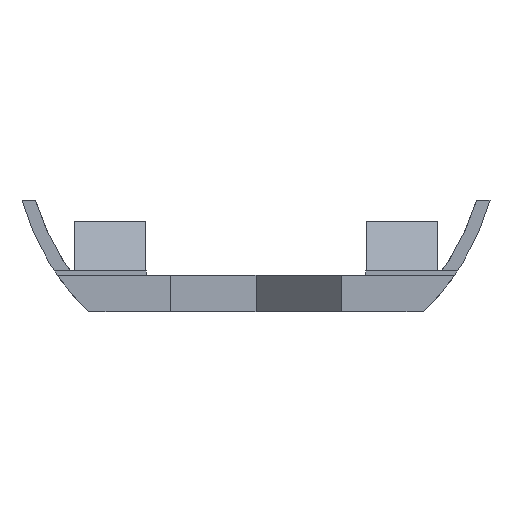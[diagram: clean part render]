
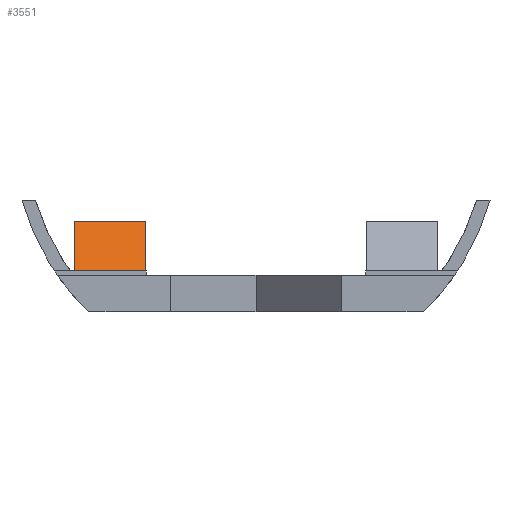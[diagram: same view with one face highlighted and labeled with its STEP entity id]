
A CAD part, left-side view. The second image highlights one B-rep face of the part: STEP entity #3551.
In plain terms, the highlighted planar face has unit normal (-0.643, 0, 0.766).
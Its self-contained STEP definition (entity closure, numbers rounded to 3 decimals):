
#32 = PLANE('',#33);
#33 = AXIS2_PLACEMENT_3D('',#34,#35,#36);
#34 = CARTESIAN_POINT('',(61.,-22.,-10.8));
#35 = DIRECTION('',(0.,0.,-1.));
#36 = DIRECTION('',(1.,0.,0.));
#601 = VERTEX_POINT('',#602);
#602 = CARTESIAN_POINT('',(160.896,14.,-10.8));
#615 = PLANE('',#616);
#616 = AXIS2_PLACEMENT_3D('',#617,#618,#619);
#617 = CARTESIAN_POINT('',(164.348,14.,-9.621));
#618 = DIRECTION('',(-0.,-1.,-0.));
#619 = DIRECTION('',(0.,0.,-1.));
#626 = EDGE_CURVE('',#627,#601,#629,.T.);
#627 = VERTEX_POINT('',#628);
#628 = CARTESIAN_POINT('',(160.896,8.5,-10.8));
#629 = SURFACE_CURVE('',#630,(#634,#640),.PCURVE_S1.);
#630 = LINE('',#631,#632);
#631 = CARTESIAN_POINT('',(160.896,-6.75,-10.8));
#632 = VECTOR('',#633,1.);
#633 = DIRECTION('',(0.,1.,0.));
#634 = PCURVE('',#32,#635);
#635 = DEFINITIONAL_REPRESENTATION('',(#636),#639);
#636 = B_SPLINE_CURVE_WITH_KNOTS('',1,(#637,#638),.UNSPECIFIED.,.F.,.F.,
  (2,2),(15.25,20.75),.PIECEWISE_BEZIER_KNOTS.);
#637 = CARTESIAN_POINT('',(99.896,-30.5));
#638 = CARTESIAN_POINT('',(99.896,-36.));
#639 = ( GEOMETRIC_REPRESENTATION_CONTEXT(2) 
PARAMETRIC_REPRESENTATION_CONTEXT() REPRESENTATION_CONTEXT('2D SPACE',''
  ) );
#640 = PCURVE('',#641,#646);
#641 = PLANE('',#642);
#642 = AXIS2_PLACEMENT_3D('',#643,#644,#645);
#643 = CARTESIAN_POINT('',(165.901,8.5,-6.6));
#644 = DIRECTION('',(-0.643,0.,0.766));
#645 = DIRECTION('',(-0.766,0.,-0.643));
#646 = DEFINITIONAL_REPRESENTATION('',(#647),#650);
#647 = B_SPLINE_CURVE_WITH_KNOTS('',1,(#648,#649),.UNSPECIFIED.,.F.,.F.,
  (2,2),(15.25,20.75),.PIECEWISE_BEZIER_KNOTS.);
#648 = CARTESIAN_POINT('',(6.534,0.));
#649 = CARTESIAN_POINT('',(6.534,-5.5));
#650 = ( GEOMETRIC_REPRESENTATION_CONTEXT(2) 
PARAMETRIC_REPRESENTATION_CONTEXT() REPRESENTATION_CONTEXT('2D SPACE',''
  ) );
#665 = PLANE('',#666);
#666 = AXIS2_PLACEMENT_3D('',#667,#668,#669);
#667 = CARTESIAN_POINT('',(164.348,8.5,-9.621));
#668 = DIRECTION('',(-0.,-1.,-0.));
#669 = DIRECTION('',(0.,0.,-1.));
#3442 = PLANE('',#3443);
#3443 = AXIS2_PLACEMENT_3D('',#3444,#3445,#3446);
#3444 = CARTESIAN_POINT('',(166.901,8.5,-6.6));
#3445 = DIRECTION('',(0.,0.,1.));
#3446 = DIRECTION('',(-1.,0.,0.));
#3457 = EDGE_CURVE('',#3458,#601,#3460,.T.);
#3458 = VERTEX_POINT('',#3459);
#3459 = CARTESIAN_POINT('',(165.901,14.,-6.6));
#3460 = SURFACE_CURVE('',#3461,(#3465,#3472),.PCURVE_S1.);
#3461 = LINE('',#3462,#3463);
#3462 = CARTESIAN_POINT('',(165.901,14.,-6.6));
#3463 = VECTOR('',#3464,1.);
#3464 = DIRECTION('',(-0.766,0.,-0.643));
#3465 = PCURVE('',#615,#3466);
#3466 = DEFINITIONAL_REPRESENTATION('',(#3467),#3471);
#3467 = LINE('',#3468,#3469);
#3468 = CARTESIAN_POINT('',(-3.021,1.553));
#3469 = VECTOR('',#3470,1.);
#3470 = DIRECTION('',(0.643,-0.766));
#3471 = ( GEOMETRIC_REPRESENTATION_CONTEXT(2) 
PARAMETRIC_REPRESENTATION_CONTEXT() REPRESENTATION_CONTEXT('2D SPACE',''
  ) );
#3472 = PCURVE('',#641,#3473);
#3473 = DEFINITIONAL_REPRESENTATION('',(#3474),#3478);
#3474 = LINE('',#3475,#3476);
#3475 = CARTESIAN_POINT('',(0.,-5.5));
#3476 = VECTOR('',#3477,1.);
#3477 = DIRECTION('',(1.,0.));
#3478 = ( GEOMETRIC_REPRESENTATION_CONTEXT(2) 
PARAMETRIC_REPRESENTATION_CONTEXT() REPRESENTATION_CONTEXT('2D SPACE',''
  ) );
#3506 = EDGE_CURVE('',#3507,#627,#3509,.T.);
#3507 = VERTEX_POINT('',#3508);
#3508 = CARTESIAN_POINT('',(165.901,8.5,-6.6));
#3509 = SURFACE_CURVE('',#3510,(#3514,#3521),.PCURVE_S1.);
#3510 = LINE('',#3511,#3512);
#3511 = CARTESIAN_POINT('',(165.901,8.5,-6.6));
#3512 = VECTOR('',#3513,1.);
#3513 = DIRECTION('',(-0.766,0.,-0.643));
#3514 = PCURVE('',#665,#3515);
#3515 = DEFINITIONAL_REPRESENTATION('',(#3516),#3520);
#3516 = LINE('',#3517,#3518);
#3517 = CARTESIAN_POINT('',(-3.021,1.553));
#3518 = VECTOR('',#3519,1.);
#3519 = DIRECTION('',(0.643,-0.766));
#3520 = ( GEOMETRIC_REPRESENTATION_CONTEXT(2) 
PARAMETRIC_REPRESENTATION_CONTEXT() REPRESENTATION_CONTEXT('2D SPACE',''
  ) );
#3521 = PCURVE('',#641,#3522);
#3522 = DEFINITIONAL_REPRESENTATION('',(#3523),#3527);
#3523 = LINE('',#3524,#3525);
#3524 = CARTESIAN_POINT('',(0.,0.));
#3525 = VECTOR('',#3526,1.);
#3526 = DIRECTION('',(1.,0.));
#3527 = ( GEOMETRIC_REPRESENTATION_CONTEXT(2) 
PARAMETRIC_REPRESENTATION_CONTEXT() REPRESENTATION_CONTEXT('2D SPACE',''
  ) );
#3551 = ADVANCED_FACE('',(#3552),#641,.T.);
#3552 = FACE_BOUND('',#3553,.T.);
#3553 = EDGE_LOOP('',(#3554,#3555,#3576,#3577));
#3554 = ORIENTED_EDGE('',*,*,#3506,.F.);
#3555 = ORIENTED_EDGE('',*,*,#3556,.T.);
#3556 = EDGE_CURVE('',#3507,#3458,#3557,.T.);
#3557 = SURFACE_CURVE('',#3558,(#3562,#3569),.PCURVE_S1.);
#3558 = LINE('',#3559,#3560);
#3559 = CARTESIAN_POINT('',(165.901,8.5,-6.6));
#3560 = VECTOR('',#3561,1.);
#3561 = DIRECTION('',(-0.,1.,-0.));
#3562 = PCURVE('',#641,#3563);
#3563 = DEFINITIONAL_REPRESENTATION('',(#3564),#3568);
#3564 = LINE('',#3565,#3566);
#3565 = CARTESIAN_POINT('',(0.,0.));
#3566 = VECTOR('',#3567,1.);
#3567 = DIRECTION('',(0.,-1.));
#3568 = ( GEOMETRIC_REPRESENTATION_CONTEXT(2) 
PARAMETRIC_REPRESENTATION_CONTEXT() REPRESENTATION_CONTEXT('2D SPACE',''
  ) );
#3569 = PCURVE('',#3442,#3570);
#3570 = DEFINITIONAL_REPRESENTATION('',(#3571),#3575);
#3571 = LINE('',#3572,#3573);
#3572 = CARTESIAN_POINT('',(1.,0.));
#3573 = VECTOR('',#3574,1.);
#3574 = DIRECTION('',(0.,-1.));
#3575 = ( GEOMETRIC_REPRESENTATION_CONTEXT(2) 
PARAMETRIC_REPRESENTATION_CONTEXT() REPRESENTATION_CONTEXT('2D SPACE',''
  ) );
#3576 = ORIENTED_EDGE('',*,*,#3457,.T.);
#3577 = ORIENTED_EDGE('',*,*,#626,.F.);
